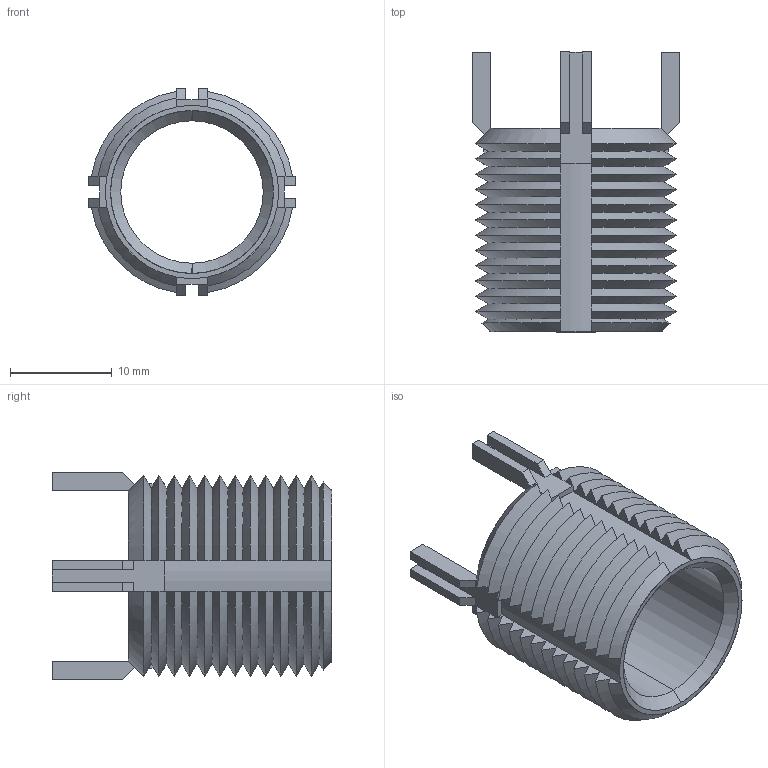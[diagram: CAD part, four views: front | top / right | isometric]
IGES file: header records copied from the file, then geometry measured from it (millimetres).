
Start section: SolidWorks IGES file using analytic representation for surfaces
Global section: file name: C:\Users\liam_\OneDrive\Documents\WORK\Work for WixRoyd\Job Files\J-00028 - Matt Davis CAD - 20191222\Wixroyd20191222\22002_v2\22002_v2_20200104_IGES\22002.W5700.igs; native system: SolidWorks 2017; preprocessor: SolidWorks 2017; author: liam_; date: 200104.213549; units: millimetre
Bounding box: 20.33 x 27.5 x 20.33 mm (x, y, z)
Surface area: 3513.3 mm2 (no closed solid volume)
Topology: 0 solids, 0 shells, 204 faces, 1216 edges, 1216 vertices
Faces by surface type: revolution 114, bspline 90
